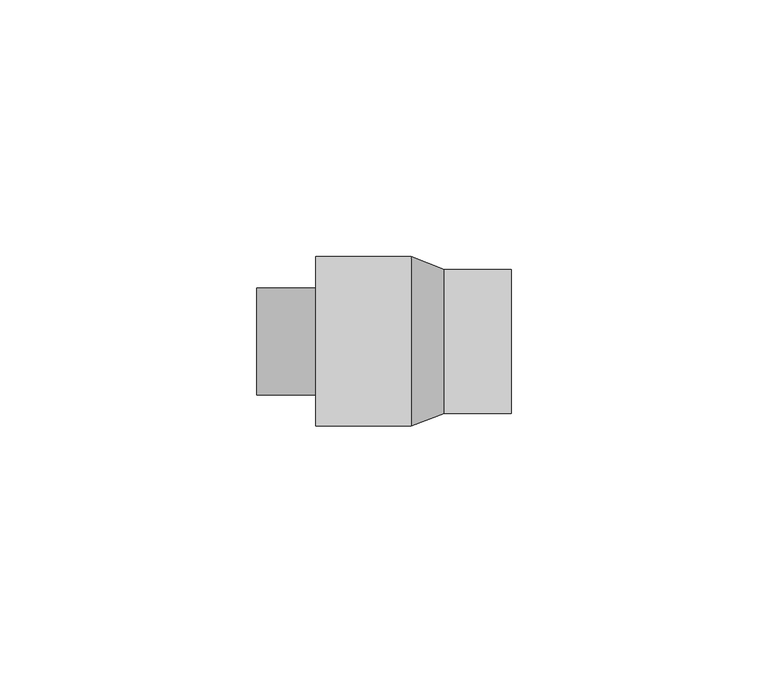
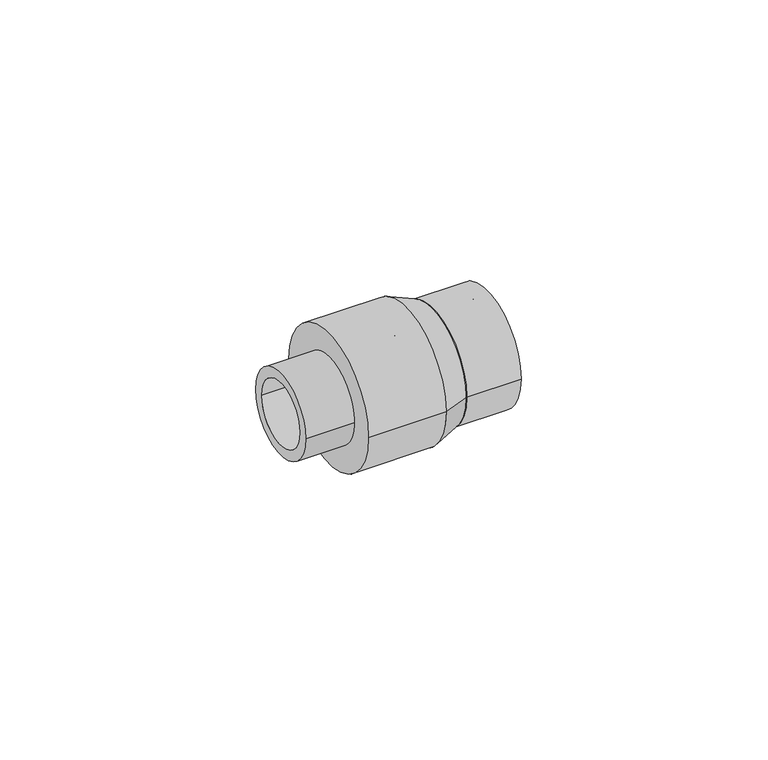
"""IFC4 building model written with IfcOpenShell, lengths in millimetres: pipe fitting geometry, 21_Муфта комбинированная НР : Белый цвет."""

from ifc_helpers import new_model, si_unit, point, frame, origin, origin_2d, place, context, project, spatial, polyline, circle_curve, trimmed, segment, composite_curve, outline, extrude, source, transform, mapped, element, save
from ifc_brep_helpers import plane_surface, revolved_surface, advanced_brep


def pipe_fitting_b7f75982(model_context):
    return source(origin(), model_context, "Body", "SolidModel", [
        extrude(outline(composite_curve([segment(trimmed(circle_curve(origin_2d(), 10.4), [point((10.4, 0.0))], [point((-10.4, 0.0))], False, "CARTESIAN"), True, "CONTINUOUS"), segment(trimmed(circle_curve(origin_2d(), 10.4), [point((-10.4, 0.0))], [point((10.4, 0.0))], False, "CARTESIAN"), True, "CONTINUOUS")], self_intersect=False), holes=[composite_curve([segment(trimmed(circle_curve(origin_2d(), 7.9), [point((7.9, 0.0))], [point((-7.9, 0.0))], True, "CARTESIAN"), True, "CONTINUOUS"), segment(trimmed(circle_curve(origin_2d(), 7.9), [point((-7.9, 0.0))], [point((7.9, 0.0))], True, "CARTESIAN"), True, "CONTINUOUS")], self_intersect=False)]), frame((-30.5, 0.0, 0.0), z_axis=(1.0, 0.0, 0.0), x_axis=(0.0, 1.0, 0.0)), (0.0, 0.0, 1.0), 26.0),
        extrude(outline(composite_curve([segment(trimmed(circle_curve(origin_2d(), 14.0), [point((-14.0, 0.0))], [point((14.0, 0.0))], False, "CARTESIAN"), True, "CONTINUOUS"), segment(trimmed(circle_curve(origin_2d(), 14.0), [point((14.0, 0.0))], [point((-14.0, 0.0))], False, "CARTESIAN"), True, "CONTINUOUS")], self_intersect=False), holes=[composite_curve([segment(trimmed(circle_curve(origin_2d(), 10.0), [point((-10.0, 0.0))], [point((10.0, 0.0))], True, "CARTESIAN"), True, "CONTINUOUS"), segment(trimmed(circle_curve(origin_2d(), 10.0), [point((10.0, 0.0))], [point((-10.0, 0.0))], True, "CARTESIAN"), True, "CONTINUOUS")], self_intersect=False)]), frame((6.0, 0.0, 0.0), z_axis=(1.0, 0.0, 0.0), x_axis=(0.0, 1.0, 0.0)), (0.0, 0.0, 1.0), 13.0),
        extrude(outline(composite_curve([segment(trimmed(circle_curve(origin_2d(), 16.5), [point((-16.5, 0.0))], [point((16.5, 0.0))], False, "CARTESIAN"), True, "CONTINUOUS"), segment(trimmed(circle_curve(origin_2d(), 16.5), [point((16.5, 0.0))], [point((-16.5, 0.0))], False, "CARTESIAN"), True, "CONTINUOUS")], self_intersect=False), holes=[composite_curve([segment(trimmed(circle_curve(origin_2d(), 7.9), [point((-7.9, 0.0))], [point((7.9, 0.0))], True, "CARTESIAN"), True, "CONTINUOUS"), segment(trimmed(circle_curve(origin_2d(), 7.9), [point((7.9, 0.0))], [point((-7.9, 0.0))], True, "CARTESIAN"), True, "CONTINUOUS")], self_intersect=False)]), frame((-19.0, 0.0, 0.0), z_axis=(1.0, 0.0, 0.0), x_axis=(0.0, 1.0, 0.0)), (0.0, 0.0, 1.0), 18.6),
        advanced_brep(
        [(6.0, -14.0, 0.0), (6.0, 14.0, 0.0), (6.0, 10.0, 0.0), (6.0, -10.0, 0.0), (-0.4, -16.5, 0.0), (-0.4, 16.5, 0.0), (-0.4, -7.9, 0.0), (-0.4, 7.9, 0.0)],
        [
            (0, 1, circle_curve(frame((6.0, 0.0, 0.0), z_axis=(1.0, -1.327040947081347e-12, 0.0), x_axis=(-1.327017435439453e-12, -1.0, 0.0)), 14.0)),
            (1, 0, circle_curve(frame((6.0, 0.0, 0.0), z_axis=(1.0, -1.327040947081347e-12, 0.0), x_axis=(1.3270174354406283e-12, 1.0, 0.0)), 14.0)),
            (2, 3, circle_curve(frame((6.0, 0.0, 0.0), z_axis=(-1.0, 0.0, 0.0), x_axis=(0.0, -1.0, 0.0)), 10.0)),
            (3, 2, circle_curve(frame((6.0, 0.0, 0.0), z_axis=(-1.0, 0.0, 0.0), x_axis=(0.0, 1.0, 0.0)), 10.0)),
            (4, 5, circle_curve(frame((-0.4, 0.0, 0.0), z_axis=(-1.0, 1.327040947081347e-12, 0.0), x_axis=(1.3270174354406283e-12, 1.0, 0.0)), 16.5)),
            (5, 4, circle_curve(frame((-0.4, 0.0, 0.0), z_axis=(-1.0, 1.327040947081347e-12, 0.0), x_axis=(-1.327017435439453e-12, -1.0, 0.0)), 16.5)),
            (6, 7, circle_curve(frame((-0.4, 0.0, 0.0), z_axis=(1.0, 0.0, 0.0), x_axis=(0.0, -1.0, 0.0)), 7.9)),
            (7, 6, circle_curve(frame((-0.4, 0.0, 0.0), z_axis=(1.0, 0.0, 0.0), x_axis=(0.0, 1.0, 0.0)), 7.9)),
            (0, 4),
            (5, 1),
            (6, 3),
            (2, 7),
        ],
        [
            plane_surface(frame((6.0, 0.0, 0.0), z_axis=(1.0, 0.0, 0.0), x_axis=(0.0, 0.0, -1.0))),
            plane_surface(frame((-0.4, 0.0, 0.0), z_axis=(-1.0, 0.0, 0.0), x_axis=(0.0, 0.0, -1.0))),
            revolved_surface(polyline([(6.0, -14.0, 0.0), (-0.40000000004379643, -16.50000000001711, 0.0)]), (41.84, 0.0, 0.0), (-1.0, 1.327040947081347e-12, 0.0)),
            revolved_surface(polyline([(6.000000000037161, 13.999999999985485, 0.0), (-0.3999999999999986, 16.5, 0.0)]), (41.84, 0.0, 0.0), (-1.0, 1.327040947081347e-12, 0.0)),
            revolved_surface(polyline([(6.0, -10.0, 0.0), (-0.3999999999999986, -7.900000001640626, 0.0)]), (-24.4761905, 0.0, 0.0), (1.0, 0.0, 0.0)),
        ],
        [
            (0, [[1, 2], [3, 4]]),
            (1, [[5, 6], [7, 8]]),
            (2, [[-1, 9, -6, 10]]),
            (3, [[-2, -10, -5, -9]]),
            (4, [[11, -3, 12, -7]]),
            (4, [[-11, -8, -12, -4]]),
        ],
    ),
    ])


if __name__ == "__main__":
    model = new_model("IFC4")
    model_context = context("Model", 3, world=origin())
    ifc_project = project(units=[si_unit("LENGTHUNIT", "METRE", prefix="MILLI")], contexts=[model_context])
    site = spatial("IfcSite", under=ifc_project)
    building = spatial("IfcBuilding", under=site)
    placement = place(None, origin())
    pipe_fitting_shape = pipe_fitting_b7f75982(model_context)
    element("IfcPipeFitting", 1, ObjectType="21_Муфта комбинированная НР : Белый цвет", at=placement, inside=building, context=model_context, shape_type="MappedRepresentation", body=[
        mapped(pipe_fitting_shape, transform((0.0, 0.0, 0.0), x_axis=(1.0, 0.0, 0.0), y_axis=(0.0, 1.0, 0.0), z_axis=(0.0, 0.0, 1.0))),
    ])
    save(model, "model.ifc")
